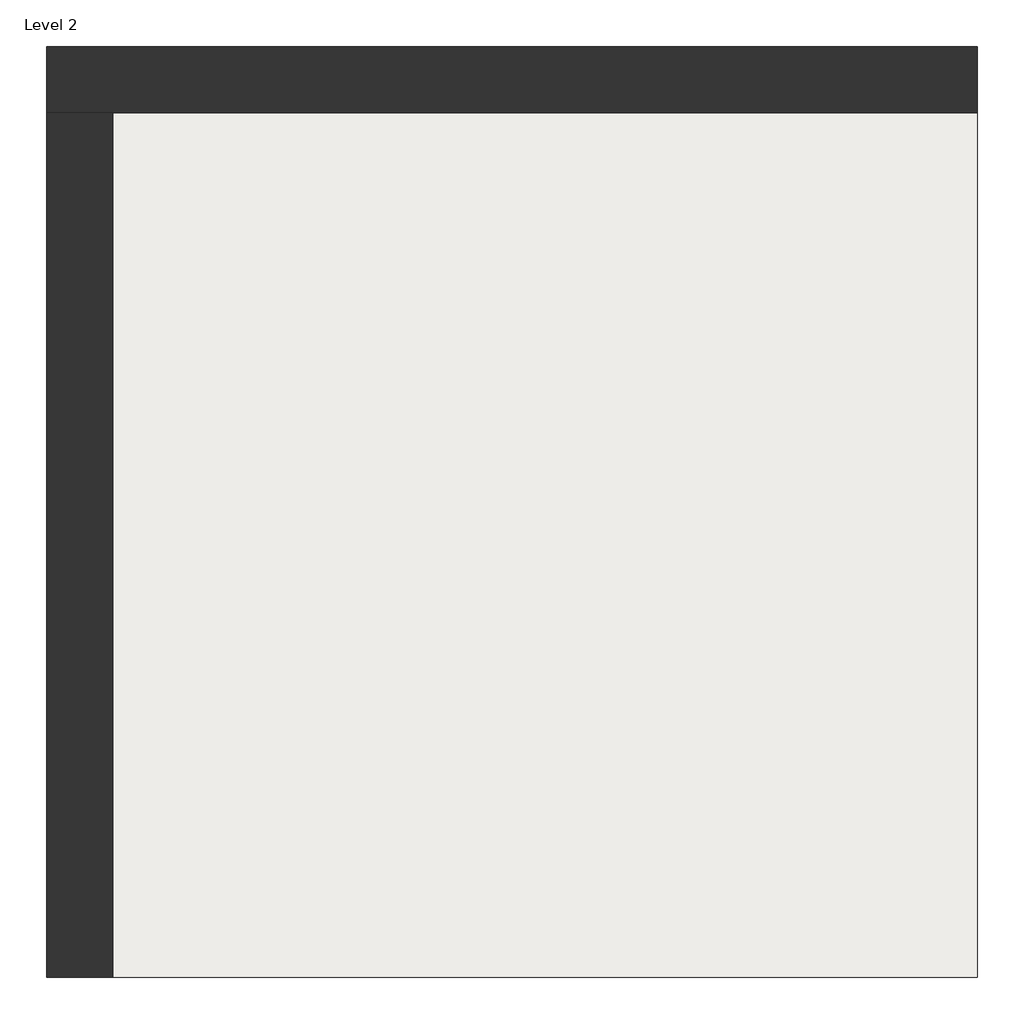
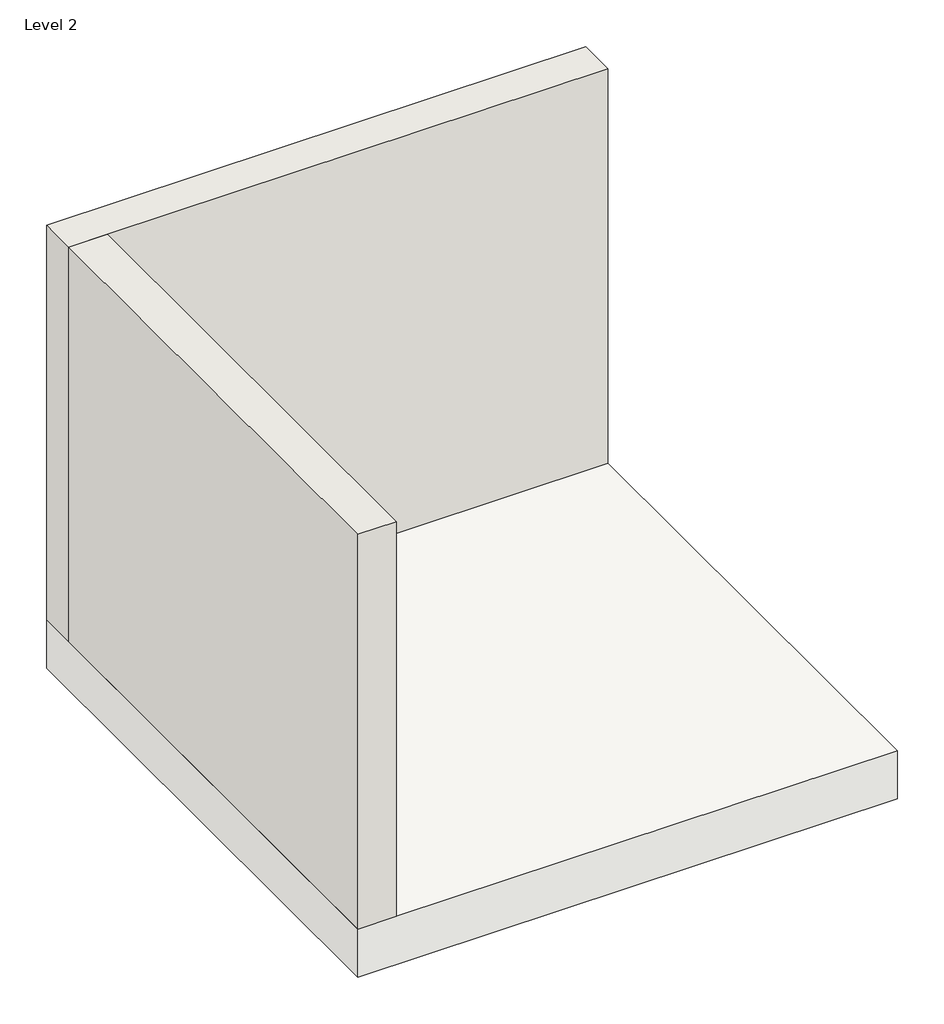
# One storey: 2 walls, 1 slab.
"""IFC4 building model written with IfcOpenShell, lengths in millimetres."""

from ifc_helpers import new_model, si_unit, frame, origin, place, context, project, spatial, polyline, outline, extrude, faceted_brep, element, save

model = new_model("IFC4")

# Units and contexts
model_context = context("Model", 3, world=origin())
ifc_project = project(units=[si_unit("LENGTHUNIT", "METRE", prefix="MILLI")], contexts=[model_context])

# Site, building, storey
site = spatial("IfcSite", under=ifc_project)
building = spatial("IfcBuilding", under=site)
storey = spatial("IfcBuildingStorey", under=building, Name="Level 2", Elevation=4000.0)

# Slab
placement = place(None, origin())
element("IfcSlab", 1, ObjectType="Generic Floor_Eternal Colour", at=placement, inside=storey, context=model_context, shape_type="Brep", body=[
    faceted_brep([(-11123.5163288, 5444.7112915, 3694.3), (-11123.5163288, 5444.7112915, 4000.0), (-11123.5163288, 5214.7112915, 4000.0), (-11123.5163288, 2214.7112915, 4000.0), (-11123.5163288, 2214.7112915, 3694.3), (-14123.5163288, 2214.7112915, 4000.0), (-14353.5163288, 2214.7112915, 4000.0), (-14353.5163288, 2214.7112915, 3694.3), (-14353.5163288, 5214.7112915, 4000.0), (-14353.5163288, 5444.7112915, 4000.0), (-14353.5163288, 5444.7112915, 3694.3)], [[[0, 1, 2, 3, 4]], [[4, 3, 5, 6, 7]], [[7, 6, 8, 9, 10]], [[10, 9, 1, 0]], [[9, 8, 6, 5, 3, 2, 1]], [[10, 0, 4, 7]]]),
])

# Walls
element("IfcWall", 2, ObjectType="Exterior wall", at=placement, inside=storey, context=model_context, shape_type="Brep", body=[
    faceted_brep([(-14353.5163288, 5214.7112915, 4000.0), (-14123.5163288, 5214.7112915, 4000.0), (-11123.5163288, 5214.7112915, 4000.0), (-11123.5163288, 5214.7112915, 6500.0), (-14123.5163288, 5214.7112915, 6500.0), (-14353.5163288, 5214.7112915, 6500.0), (-14353.5163288, 5444.7112915, 4000.0), (-14353.5163288, 5444.7112915, 6500.0), (-11123.5163288, 5444.7112915, 6500.0), (-11123.5163288, 5444.7112915, 4000.0)], [[[0, 1, 2, 3, 4, 5]], [[6, 7, 8, 9]], [[2, 1, 0, 6, 9]], [[3, 2, 9, 8]], [[5, 4, 3, 8, 7]], [[0, 5, 7, 6]]]),
])
element("IfcWall", 3, ObjectType="Exterior wall", at=placement, inside=storey, context=model_context, shape_type="SweptSolid", body=[
    extrude(outline(polyline([(-14353.5163288, 2214.7112915), (-14353.5163288, 5214.7112915), (-14123.5163288, 5214.7112915), (-14123.5163288, 2214.7112915), (-14353.5163288, 2214.7112915)])), frame((0.0, 0.0, 4000.0), z_axis=(0.0, 0.0, 1.0), x_axis=(1.0, 0.0, 0.0)), (0.0, 0.0, 1.0), 2500.0),
])

save(model, "model.ifc")
